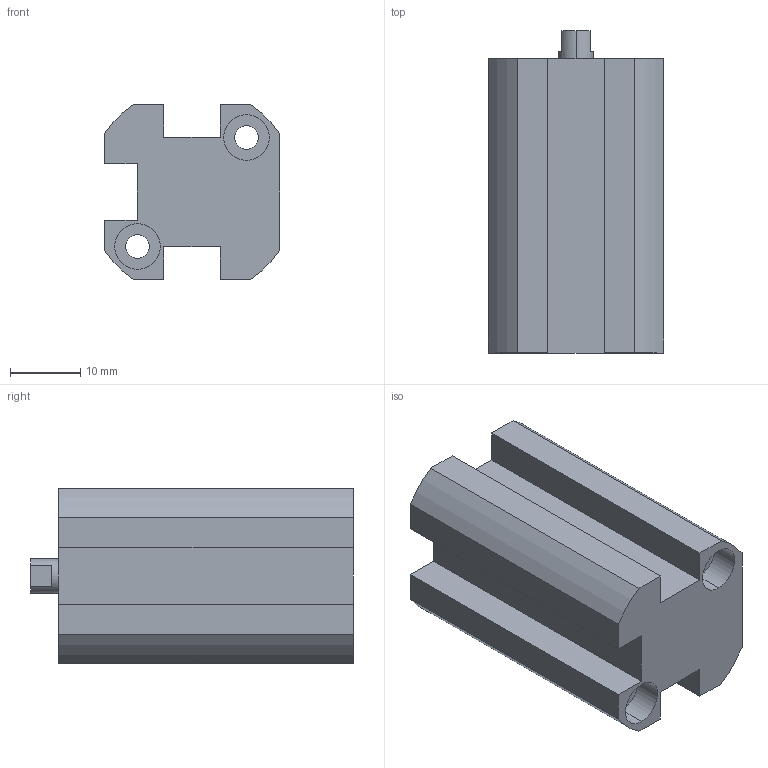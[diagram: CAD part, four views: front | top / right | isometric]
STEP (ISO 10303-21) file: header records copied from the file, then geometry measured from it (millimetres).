
FILE_DESCRIPTION (( 'STEP AP203' ), '1' );
FILE_NAME ('XG#1-10D-10.STEP', '2016-05-24T01:39:08', ( '' ), ( '' ), 'SwSTEP 2.0', 'SolidWorks 2014', '' );
FILE_SCHEMA (( 'CONFIG_CONTROL_DESIGN' ));
Length unit declared in the file: millimetre
Products named in the file (1): XG#1-10D-10
Bounding box: 25 x 46 x 25 mm (x, y, z)
Volume: 18761.2 mm3; surface area: 7370.5 mm2
Topology: 1 solids, 1 shells, 72 faces, 177 edges, 116 vertices
Faces by surface type: cylinder 37, plane 33, cone 2
Entity records: 2227 total; most frequent: DIRECTION 400, CARTESIAN_POINT 364, ORIENTED_EDGE 350, EDGE_CURVE 175, AXIS2_PLACEMENT_3D 152, VERTEX_POINT 116, LINE 96, VECTOR 96
